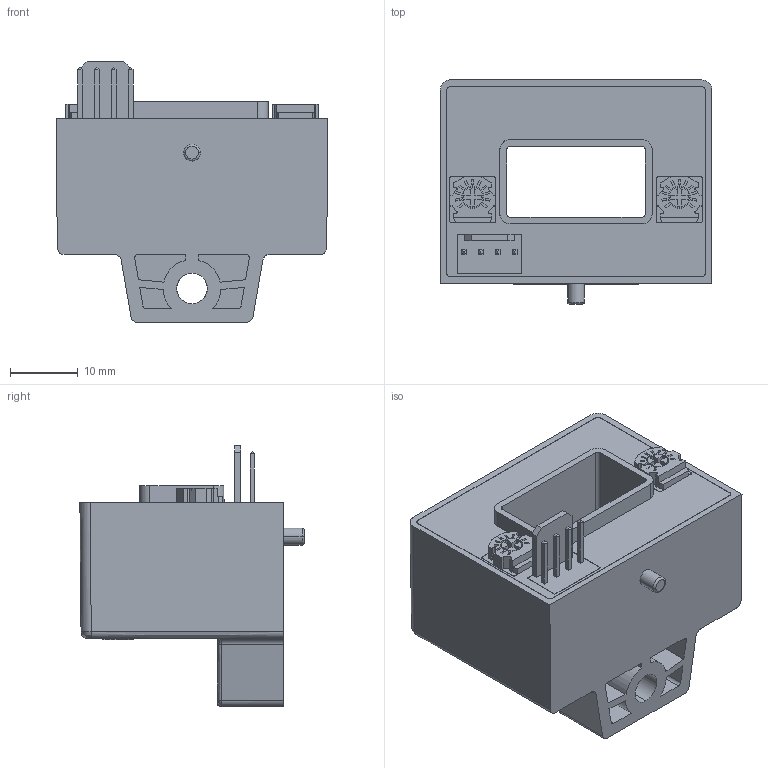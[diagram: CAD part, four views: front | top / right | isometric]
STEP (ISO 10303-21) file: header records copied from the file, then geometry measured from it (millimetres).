
FILE_DESCRIPTION(('Creo Elements/Direct Modeling STEP Export'),'2;1');
FILE_NAME('HAS 600-S _SP105 Blackbox.stp','2016-08-10T11:05:02',(''),(''),'PTC Creo Elements/Direct Modeling STEP processor for AP214 (Solid Model)','PTC Creo Elements/Direct Modeling 19.0B 21-Mar-2015 (C) Parametric Technology GmbH','');
FILE_SCHEMA(('AUTOMOTIVE_DESIGN { 1 0 10303 214 1 1 1 1 }'));
Length unit declared in the file: millimetre
Products named in the file (2): HAS600-P_SP105
Assembly tree (1 placements, depth 2):
  HAS600-P_SP105
    HAS600-P_SP105
Bounding box: 40 x 33 x 38.4 mm (x, y, z)
Volume: 21172.8 mm3; surface area: 7760.9 mm2
Topology: 1 solids, 1 shells, 529 faces, 1356 edges, 896 vertices
Faces by surface type: plane 438, cylinder 70, extrusion 12, bspline 6, torus 2, sphere 1
Entity records: 17140 total; most frequent: CARTESIAN_POINT 3658, ORIENTED_EDGE 2712, DIRECTION 2417, EDGE_CURVE 1356, VECTOR 1177, LINE 1165, VERTEX_POINT 896, AXIS2_PLACEMENT_3D 620
